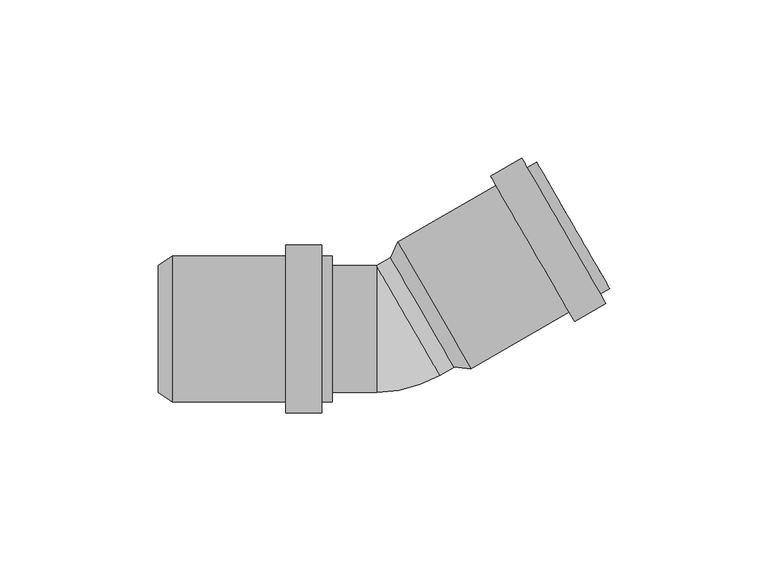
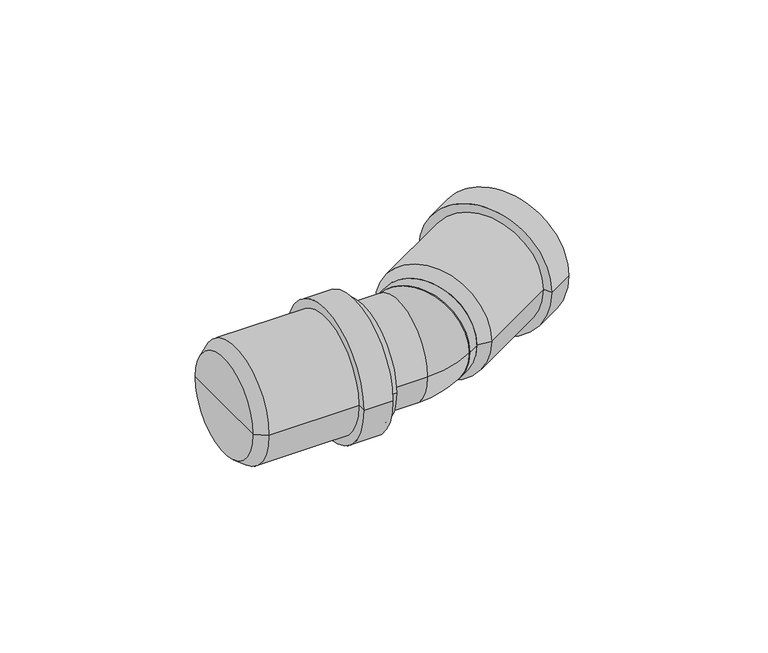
"""IFC4 building model written with IfcOpenShell, lengths in millimetres: pipe fitting geometry, pf_HTB : pf_HTB."""

from ifc_helpers import new_model, si_unit, point, frame, origin, origin_2d, place, context, project, spatial, polyline, circle_curve, ellipse_curve, trimmed, segment, composite_curve, outline, extrude, source, transform, mapped, element, save
from ifc_brep_helpers import plane_surface, cylinder_surface, revolved_surface, advanced_brep


def pipe_fitting_ae09612a(model_context):
    return source(origin(), model_context, "Body", "SolidModel", [
        advanced_brep(
        [(19.0932667, -12.0705081, 0.0), (-0.9067333, 22.5705081, 0.0), (1.3537785, 27.4551868, 0.0), (24.4537785, -12.5551868, 0.0), (9.0932667, 5.25, 0.0), (68.2746639, 12.7448132, 0.0), (45.1746639, 52.7551868, 0.0), (46.7246639, 50.0705081, 0.0), (66.7246639, 15.4294919, 0.0), (65.3301776, 11.0448132, 0.0), (42.2301776, 51.0551868, 0.0), (67.0301776, 8.1003268, 0.0), (40.5301776, 53.9996732, 0.0), (57.157488, 2.4003268, 0.0), (30.657488, 48.2996732, 0.0), (55.457488, 5.3448132, 0.0), (32.357488, 45.3551868, 0.0), (22.9037785, -9.8705081, 0.0), (2.9037785, 24.7705081, 0.0), (12.9037785, 7.45, 0.0)],
        [
            (0, 1, circle_curve(frame((9.0932667, 5.25, 0.0), z_axis=(0.866025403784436, 0.5000000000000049, 0.0), x_axis=(-0.5000000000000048, 0.8660254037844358, 0.0)), 20.0)),
            (1, 2),
            (2, 3, circle_curve(frame((12.9037785, 7.45, 0.0), z_axis=(-0.866025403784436, -0.5000000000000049, 0.0), x_axis=(-0.5000000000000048, 0.8660254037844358, 0.0)), 23.1)),
            (3, 0),
            (1, 0, circle_curve(frame((9.0932667, 5.25, 0.0), z_axis=(0.866025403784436, 0.5000000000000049, 0.0), x_axis=(-0.5000000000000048, 0.8660254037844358, 0.0)), 20.0)),
            (3, 2, circle_curve(frame((12.9037785, 7.45, 0.0), z_axis=(-0.866025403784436, -0.5000000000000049, 0.0), x_axis=(-0.5000000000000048, 0.8660254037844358, 0.0)), 23.1)),
            (4, 1),
            (0, 4),
            (5, 6, circle_curve(frame((56.7246639, 32.75, 0.0), z_axis=(0.866025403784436, 0.5000000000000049, 0.0), x_axis=(-0.5000000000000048, 0.8660254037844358, 0.0)), 23.1)),
            (6, 7),
            (7, 8, circle_curve(frame((56.7246639, 32.75, 0.0), z_axis=(-0.866025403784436, -0.5000000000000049, 0.0), x_axis=(-0.5000000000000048, 0.8660254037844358, 0.0)), 20.0)),
            (8, 5),
            (6, 5, circle_curve(frame((56.7246639, 32.75, 0.0), z_axis=(0.866025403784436, 0.5000000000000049, 0.0), x_axis=(-0.5000000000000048, 0.8660254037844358, 0.0)), 23.1)),
            (8, 7, circle_curve(frame((56.7246639, 32.75, 0.0), z_axis=(-0.866025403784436, -0.5000000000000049, 0.0), x_axis=(-0.5000000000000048, 0.8660254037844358, 0.0)), 20.0)),
            (9, 10, circle_curve(frame((53.7801776, 31.05, 0.0), z_axis=(0.866025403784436, 0.5000000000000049, 0.0), x_axis=(-0.5000000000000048, 0.8660254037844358, 0.0)), 23.1)),
            (10, 6),
            (5, 9),
            (10, 9, circle_curve(frame((53.7801776, 31.05, 0.0), z_axis=(0.866025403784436, 0.5000000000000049, 0.0), x_axis=(-0.5000000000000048, 0.8660254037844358, 0.0)), 23.1)),
            (11, 12, circle_curve(frame((53.7801776, 31.05, 0.0), z_axis=(0.866025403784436, 0.5000000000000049, 0.0), x_axis=(-0.5000000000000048, 0.8660254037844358, 0.0)), 26.5)),
            (12, 10),
            (9, 11),
            (12, 11, circle_curve(frame((53.7801776, 31.05, 0.0), z_axis=(0.866025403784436, 0.5000000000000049, 0.0), x_axis=(-0.5000000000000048, 0.8660254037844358, 0.0)), 26.5)),
            (13, 14, circle_curve(frame((43.907488, 25.35, 0.0), z_axis=(0.866025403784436, 0.5000000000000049, 0.0), x_axis=(-0.5000000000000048, 0.8660254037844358, 0.0)), 26.5)),
            (14, 12),
            (11, 13),
            (14, 13, circle_curve(frame((43.907488, 25.35, 0.0), z_axis=(0.866025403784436, 0.5000000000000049, 0.0), x_axis=(-0.5000000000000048, 0.8660254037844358, 0.0)), 26.5)),
            (15, 16, circle_curve(frame((43.907488, 25.35, 0.0), z_axis=(0.866025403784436, 0.5000000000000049, 0.0), x_axis=(-0.5000000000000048, 0.8660254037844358, 0.0)), 23.1)),
            (16, 14),
            (13, 15),
            (16, 15, circle_curve(frame((43.907488, 25.35, 0.0), z_axis=(0.866025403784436, 0.5000000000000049, 0.0), x_axis=(-0.5000000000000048, 0.8660254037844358, 0.0)), 23.1)),
            (2, 16),
            (15, 3),
            (17, 18, circle_curve(frame((12.9037785, 7.45, 0.0), z_axis=(0.866025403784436, 0.5000000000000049, 0.0), x_axis=(-0.5000000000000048, 0.8660254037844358, 0.0)), 20.0)),
            (18, 19),
            (19, 17),
            (18, 17, circle_curve(frame((12.9037785, 7.45, 0.0), z_axis=(0.866025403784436, 0.5000000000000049, 0.0), x_axis=(-0.5000000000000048, 0.8660254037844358, 0.0)), 20.0)),
            (7, 18),
            (17, 8),
        ],
        [
            revolved_surface(polyline([(1.3537785, 27.4551868, 0.0), (-0.9067333, 22.5705081, 0.0)]), (9.0932667, 5.25, 0.0), (-0.8660254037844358, -0.5000000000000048, 0.0)),
            plane_surface(frame((9.0932667, 5.25, 0.0), z_axis=(-0.8660254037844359, -0.5000000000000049, 0.0), x_axis=(-0.5000000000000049, 0.8660254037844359, 0.0))),
            plane_surface(frame((56.7246639, 32.75, 0.0), z_axis=(0.8660254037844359, 0.5000000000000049, 0.0), x_axis=(-0.5000000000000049, 0.8660254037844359, 0.0))),
            cylinder_surface(frame((9.0932667, 5.25, 0.0), z_axis=(-0.8660254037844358, -0.5000000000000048, 0.0), x_axis=(-0.5000000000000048, 0.8660254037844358, 0.0)), 23.1),
            plane_surface(frame((53.7801776, 31.05, 0.0), z_axis=(0.8660254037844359, 0.5000000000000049, 0.0), x_axis=(-0.5000000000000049, 0.8660254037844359, 0.0))),
            cylinder_surface(frame((9.0932667, 5.25, 0.0), z_axis=(-0.8660254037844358, -0.5000000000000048, 0.0), x_axis=(-0.5000000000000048, 0.8660254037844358, 0.0)), 26.5),
            plane_surface(frame((43.907488, 25.35, 0.0), z_axis=(-0.8660254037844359, -0.5000000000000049, 0.0), x_axis=(-0.5000000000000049, 0.8660254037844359, 0.0))),
            plane_surface(frame((12.9037785, 7.45, 0.0), z_axis=(0.8660254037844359, 0.5000000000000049, 0.0), x_axis=(-0.5000000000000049, 0.8660254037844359, 0.0))),
            revolved_surface(polyline([(2.9037784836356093, 24.77050807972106, 0.0), (46.72466391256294, 50.07050807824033, 0.0)]), (9.0932667, 5.25, 0.0), (-0.8660254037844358, -0.5000000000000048, 0.0)),
        ],
        [
            (0, [[1, 2, 3, 4]]),
            (0, [[5, -4, 6, -2]]),
            (1, [[7, -1, 8]]),
            (1, [[-8, -5, -7]]),
            (2, [[9, 10, 11, 12]]),
            (2, [[13, -12, 14, -10]]),
            (3, [[15, 16, -9, 17]]),
            (3, [[18, -17, -13, -16]]),
            (4, [[19, 20, -15, 21]]),
            (4, [[22, -21, -18, -20]]),
            (5, [[23, 24, -19, 25]]),
            (5, [[26, -25, -22, -24]]),
            (6, [[27, 28, -23, 29]]),
            (6, [[30, -29, -26, -28]]),
            (3, [[-3, 31, -27, 32]]),
            (3, [[-6, -32, -30, -31]]),
            (7, [[33, 34, 35]]),
            (7, [[36, -35, -34]]),
            (8, [[-11, 37, -33, 38]]),
            (8, [[-14, -38, -36, -37]]),
        ],
    ),
        advanced_brep(
        [(-74.3, -20.0, 0.0), (-74.3, 20.0, 0.0), (-69.9, 23.1, 0.0), (-69.9, -23.1, 0.0), (-74.3, 0.0, 0.0), (-19.3, -23.1, 0.0), (-19.3, 23.1, 0.0), (-19.3, 20.0, 0.0), (-19.3, -20.0, 0.0), (-22.7, -23.1, 0.0), (-22.7, 23.1, 0.0), (-22.7, -26.5, 0.0), (-22.7, 26.5, 0.0), (-34.1, -26.5, 0.0), (-34.1, 26.5, 0.0), (-34.1, -23.1, 0.0), (-34.1, 23.1, 0.0), (-69.9, -20.0, 0.0), (-69.9, 20.0, 0.0), (-69.9, 0.0, 0.0)],
        [
            (0, 1, circle_curve(frame((-74.3, 0.0, 0.0), z_axis=(1.0, 0.0, 0.0), x_axis=(0.0, 1.0, 0.0)), 20.0)),
            (1, 2),
            (2, 3, circle_curve(frame((-69.9, 0.0, 0.0), z_axis=(-1.0, 0.0, 0.0), x_axis=(0.0, 1.0, 0.0)), 23.1)),
            (3, 0),
            (1, 0, circle_curve(frame((-74.3, 0.0, 0.0), z_axis=(1.0, 0.0, 0.0), x_axis=(0.0, 1.0, 0.0)), 20.0)),
            (3, 2, circle_curve(frame((-69.9, 0.0, 0.0), z_axis=(-1.0, 0.0, 0.0), x_axis=(0.0, 1.0, 0.0)), 23.1)),
            (4, 1),
            (0, 4),
            (5, 6, circle_curve(frame((-19.3, 0.0, 0.0), z_axis=(1.0, 0.0, 0.0), x_axis=(0.0, 1.0, 0.0)), 23.1)),
            (6, 7),
            (7, 8, circle_curve(frame((-19.3, 0.0, 0.0), z_axis=(-1.0, 0.0, 0.0), x_axis=(0.0, 1.0, 0.0)), 20.0)),
            (8, 5),
            (6, 5, circle_curve(frame((-19.3, 0.0, 0.0), z_axis=(1.0, 0.0, 0.0), x_axis=(0.0, 1.0, 0.0)), 23.1)),
            (8, 7, circle_curve(frame((-19.3, 0.0, 0.0), z_axis=(-1.0, 0.0, 0.0), x_axis=(0.0, 1.0, 0.0)), 20.0)),
            (9, 10, circle_curve(frame((-22.7, 0.0, 0.0), z_axis=(1.0, 0.0, 0.0), x_axis=(0.0, 1.0, 0.0)), 23.1)),
            (10, 6),
            (5, 9),
            (10, 9, circle_curve(frame((-22.7, 0.0, 0.0), z_axis=(1.0, 0.0, 0.0), x_axis=(0.0, 1.0, 0.0)), 23.1)),
            (11, 12, circle_curve(frame((-22.7, 0.0, 0.0), z_axis=(1.0, 0.0, 0.0), x_axis=(0.0, 1.0, 0.0)), 26.5)),
            (12, 10),
            (9, 11),
            (12, 11, circle_curve(frame((-22.7, 0.0, 0.0), z_axis=(1.0, 0.0, 0.0), x_axis=(0.0, 1.0, 0.0)), 26.5)),
            (13, 14, circle_curve(frame((-34.1, 0.0, 0.0), z_axis=(1.0, 0.0, 0.0), x_axis=(0.0, 1.0, 0.0)), 26.5)),
            (14, 12),
            (11, 13),
            (14, 13, circle_curve(frame((-34.1, 0.0, 0.0), z_axis=(1.0, 0.0, 0.0), x_axis=(0.0, 1.0, 0.0)), 26.5)),
            (15, 16, circle_curve(frame((-34.1, 0.0, 0.0), z_axis=(1.0, 0.0, 0.0), x_axis=(0.0, 1.0, 0.0)), 23.1)),
            (16, 14),
            (13, 15),
            (16, 15, circle_curve(frame((-34.1, 0.0, 0.0), z_axis=(1.0, 0.0, 0.0), x_axis=(0.0, 1.0, 0.0)), 23.1)),
            (2, 16),
            (15, 3),
            (17, 18, circle_curve(frame((-69.9, 0.0, 0.0), z_axis=(1.0, 0.0, 0.0), x_axis=(0.0, 1.0, 0.0)), 20.0)),
            (18, 19),
            (19, 17),
            (18, 17, circle_curve(frame((-69.9, 0.0, 0.0), z_axis=(1.0, 0.0, 0.0), x_axis=(0.0, 1.0, 0.0)), 20.0)),
            (7, 18),
            (17, 8),
        ],
        [
            revolved_surface(polyline([(-69.9, 23.1, 0.0), (-74.3, 20.0, 0.0)]), (-74.3, 0.0, 0.0), (-1.0, 0.0, 0.0)),
            plane_surface(frame((-74.3, 0.0, 0.0), z_axis=(-1.0, 0.0, 0.0), x_axis=(0.0, 1.0, 0.0))),
            plane_surface(frame((-19.3, 0.0, 0.0), z_axis=(1.0, 0.0, 0.0), x_axis=(0.0, 1.0, 0.0))),
            cylinder_surface(frame((-74.3, 0.0, 0.0), z_axis=(-1.0, 0.0, 0.0), x_axis=(0.0, 1.0, 0.0)), 23.1),
            plane_surface(frame((-22.7, 0.0, 0.0), z_axis=(1.0, 0.0, 0.0), x_axis=(0.0, 1.0, 0.0))),
            cylinder_surface(frame((-74.3, 0.0, 0.0), z_axis=(-1.0, 0.0, 0.0), x_axis=(0.0, 1.0, 0.0)), 26.5),
            plane_surface(frame((-34.1, 0.0, 0.0), z_axis=(-1.0, 0.0, 0.0), x_axis=(0.0, 1.0, 0.0))),
            plane_surface(frame((-69.9, 0.0, 0.0), z_axis=(1.0, 0.0, 0.0), x_axis=(0.0, 1.0, 0.0))),
            revolved_surface(polyline([(-69.9, 20.0, 0.0), (-19.299999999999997, 20.0, 0.0)]), (-74.3, 0.0, 0.0), (-1.0, 0.0, 0.0)),
        ],
        [
            (0, [[1, 2, 3, 4]]),
            (0, [[5, -4, 6, -2]]),
            (1, [[7, -1, 8]]),
            (1, [[-8, -5, -7]]),
            (2, [[9, 10, 11, 12]]),
            (2, [[13, -12, 14, -10]]),
            (3, [[15, 16, -9, 17]]),
            (3, [[18, -17, -13, -16]]),
            (4, [[19, 20, -15, 21]]),
            (4, [[22, -21, -18, -20]]),
            (5, [[23, 24, -19, 25]]),
            (5, [[26, -25, -22, -24]]),
            (6, [[27, 28, -23, 29]]),
            (6, [[30, -29, -26, -28]]),
            (3, [[-3, 31, -27, 32]]),
            (3, [[-6, -32, -30, -31]]),
            (7, [[33, 34, 35]]),
            (7, [[36, -35, -34]]),
            (8, [[-11, 37, -33, 38]]),
            (8, [[-14, -38, -36, -37]]),
        ],
    ),
        extrude(outline(composite_curve([segment(trimmed(circle_curve(origin_2d(), 20.0), [point((0.0, -20.0))], [point((0.0, 20.0))], False, "CARTESIAN"), True, "CONTINUOUS"), segment(trimmed(circle_curve(origin_2d(), 20.0), [point((0.0, 20.0))], [point((0.0, -20.0))], False, "CARTESIAN"), True, "CONTINUOUS")], self_intersect=False)), frame((4.6410162, 2.6794919, 0.0), z_axis=(0.8660254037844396, 0.49999999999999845, 0.0), x_axis=(0.0, 0.0, 1.0)), (0.0, 0.0, 1.0), 9.5410162),
        extrude(outline(composite_curve([segment(trimmed(circle_curve(origin_2d(), 20.0), [point((-20.0, 0.0))], [point((20.0, 0.0))], False, "CARTESIAN"), True, "CONTINUOUS"), segment(trimmed(circle_curve(origin_2d(), 20.0), [point((20.0, 0.0))], [point((-20.0, 0.0))], False, "CARTESIAN"), True, "CONTINUOUS")], self_intersect=False)), frame((-69.9, 0.0, 0.0), z_axis=(1.0, 0.0, 0.0), x_axis=(0.0, 1.0, 0.0)), (0.0, 0.0, 1.0), 64.5410162),
        advanced_brep(
        [(-5.3589838, -20.0, 0.0), (-5.3589838, 20.0, 0.0), (14.6410162, -14.6410162, 0.0)],
        [
            (0, 1, circle_curve(frame((-5.3589838, 0.0, 0.0), z_axis=(-1.0, 0.0, 0.0), x_axis=(0.0, 1.0, 0.0)), 20.0)),
            (1, 0, circle_curve(frame((-5.3589838, 0.0, 0.0), z_axis=(-1.0, 0.0, 0.0), x_axis=(0.0, 1.0, 0.0)), 20.0)),
            (2, 1, circle_curve(frame((4.6410162, 2.6794919, 0.0), z_axis=(0.8660254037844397, 0.49999999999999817, 0.0), x_axis=(-0.49999999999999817, 0.8660254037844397, 0.0)), 20.0)),
            (1, 2, circle_curve(frame((4.6410162, 2.6794919, 0.0), z_axis=(0.8660254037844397, 0.49999999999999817, 0.0), x_axis=(-0.49999999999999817, 0.8660254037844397, 0.0)), 20.0)),
            (2, 0, circle_curve(frame((-5.3589838, 20.0, 0.0), z_axis=(0.0, 0.0, -1.0), x_axis=(0.0, -1.0, 0.0)), 40.0)),
        ],
        [
            plane_surface(frame((-5.3589838, 20.0, -14.8), z_axis=(-1.0, 0.0, 0.0), x_axis=(0.0, -1.0, 0.0))),
            plane_surface(frame((-5.3589838, 20.0, -14.8), z_axis=(0.8660254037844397, 0.4999999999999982, 0.0), x_axis=(0.4999999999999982, -0.8660254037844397, 0.0))),
            revolved_surface(trimmed(ellipse_curve(frame((-5.3589838, 0.0, 0.0), z_axis=(1.0, 0.0, 0.0), x_axis=(0.0, 1.0, 0.0)), 20.0, 20.0), [point((-5.3589838, -20.0, 0.0))], [point((-5.3589838, 20.0, 0.0))], True, "CARTESIAN"), (-5.3589838, 20.0, -14.8), (0.0, 0.0, -1.0)),
            revolved_surface(trimmed(ellipse_curve(frame((-5.3589838, 0.0, 0.0), z_axis=(1.0, 0.0, 0.0), x_axis=(0.0, 1.0, 0.0)), 20.0, 20.0), [point((-5.3589838, 20.0, 0.0))], [point((-5.3589838, -20.0, 0.0))], True, "CARTESIAN"), (-5.3589838, 20.0, -14.8), (0.0, 0.0, -1.0)),
        ],
        [
            (0, [[1, 2]]),
            (1, [[3, 4]]),
            (2, [[5, -2, -3]]),
            (3, [[-1, -5, -4]]),
        ],
    ),
    ])


if __name__ == "__main__":
    model = new_model("IFC4")
    model_context = context("Model", 3, world=origin())
    ifc_project = project(units=[si_unit("LENGTHUNIT", "METRE", prefix="MILLI")], contexts=[model_context])
    site = spatial("IfcSite", under=ifc_project)
    building = spatial("IfcBuilding", under=site)
    placement = place(None, origin())
    pipe_fitting_shape = pipe_fitting_ae09612a(model_context)
    element("IfcPipeFitting", 1, ObjectType="pf_HTB : pf_HTB", at=placement, inside=building, context=model_context, shape_type="MappedRepresentation", body=[
        mapped(pipe_fitting_shape, transform((0.0, 0.0, 0.0), x_axis=(1.0, 0.0, 0.0), y_axis=(0.0, 1.0, 0.0), z_axis=(0.0, 0.0, 1.0))),
    ])
    save(model, "model.ifc")
